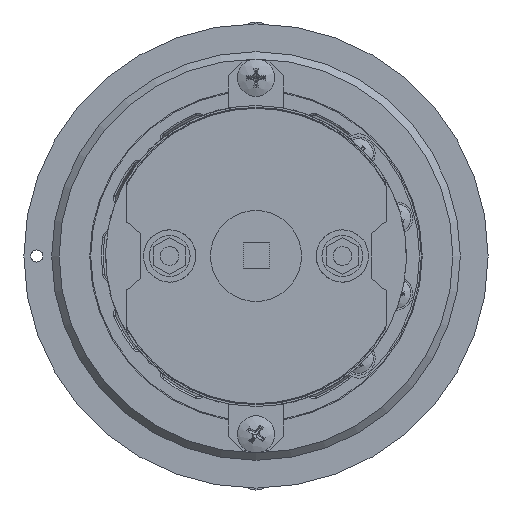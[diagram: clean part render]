
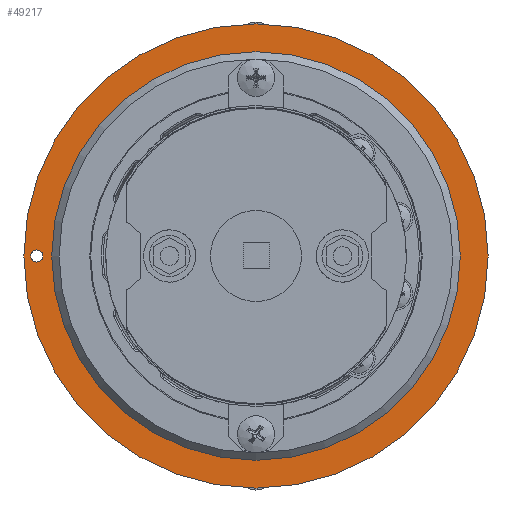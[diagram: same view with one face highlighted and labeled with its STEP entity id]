
A CAD part, left-side view. The second image highlights one B-rep face of the part: STEP entity #49217.
In plain terms, the highlighted planar face has unit normal (-1, 0, 0).
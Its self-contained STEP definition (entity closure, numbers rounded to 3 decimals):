
#1001 = DIRECTION ( 'NONE',  ( 0., 0., -1. ) ) ;
#7508 = AXIS2_PLACEMENT_3D ( 'NONE', #51218, #38881, #74352 ) ;
#10414 = FACE_BOUND ( 'NONE', #21151, .T. ) ;
#12393 = AXIS2_PLACEMENT_3D ( 'NONE', #57831, #70826, #45867 ) ;
#14116 = FACE_BOUND ( 'NONE', #76396, .T. ) ;
#14688 = ORIENTED_EDGE ( 'NONE', *, *, #71681, .F. ) ;
#15601 = CARTESIAN_POINT ( 'NONE',  ( 159.75, 0., 0. ) ) ;
#17996 = EDGE_LOOP ( 'NONE', ( #22923 ) ) ;
#21151 = EDGE_LOOP ( 'NONE', ( #14688 ) ) ;
#22923 = ORIENTED_EDGE ( 'NONE', *, *, #52739, .F. ) ;
#24181 = CARTESIAN_POINT ( 'NONE',  ( 159.75, 59., -1.621 ) ) ;
#25527 = EDGE_CURVE ( 'NONE', #28781, #28781, #44508, .T. ) ;
#28781 = VERTEX_POINT ( 'NONE', #24181 ) ;
#29664 = VERTEX_POINT ( 'NONE', #72195 ) ;
#38881 = DIRECTION ( 'NONE',  ( 1., 0., 0. ) ) ;
#40137 = PLANE ( 'NONE',  #40757 ) ;
#40757 = AXIS2_PLACEMENT_3D ( 'NONE', #15601, #45435, #63655 ) ;
#43197 = CARTESIAN_POINT ( 'NONE',  ( 159.75, 0., 0. ) ) ;
#44508 = CIRCLE ( 'NONE', #12393, 1.621 ) ;
#45435 = DIRECTION ( 'NONE',  ( 1., 0., 0. ) ) ;
#45867 = DIRECTION ( 'NONE',  ( 0., 0., -1. ) ) ;
#49217 = ADVANCED_FACE ( 'NONE', ( #14116, #10414, #72017 ), #40137, .F. ) ;
#49531 = DIRECTION ( 'NONE',  ( -1., 0., 0. ) ) ;
#51218 = CARTESIAN_POINT ( 'NONE',  ( 159.75, 0., 0. ) ) ;
#52739 = EDGE_CURVE ( 'NONE', #29664, #29664, #71451, .T. ) ;
#57831 = CARTESIAN_POINT ( 'NONE',  ( 159.75, 59., 0. ) ) ;
#62885 = CARTESIAN_POINT ( 'NONE',  ( 159.75, 0., -52.5 ) ) ;
#63655 = DIRECTION ( 'NONE',  ( 0., 0., -1. ) ) ;
#66050 = VERTEX_POINT ( 'NONE', #62885 ) ;
#70807 = AXIS2_PLACEMENT_3D ( 'NONE', #43197, #49531, #1001 ) ;
#70826 = DIRECTION ( 'NONE',  ( 1., 0., 0. ) ) ;
#71451 = CIRCLE ( 'NONE', #7508, 62.5 ) ;
#71681 = EDGE_CURVE ( 'NONE', #66050, #66050, #73388, .T. ) ;
#72017 = FACE_OUTER_BOUND ( 'NONE', #17996, .T. ) ;
#72195 = CARTESIAN_POINT ( 'NONE',  ( 159.75, 0., -62.5 ) ) ;
#72682 = ORIENTED_EDGE ( 'NONE', *, *, #25527, .T. ) ;
#73388 = CIRCLE ( 'NONE', #70807, 52.5 ) ;
#74352 = DIRECTION ( 'NONE',  ( 0., 0., -1. ) ) ;
#76396 = EDGE_LOOP ( 'NONE', ( #72682 ) ) ;
